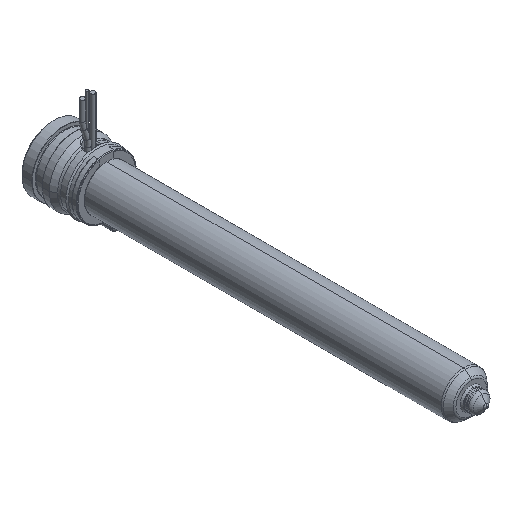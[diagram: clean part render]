
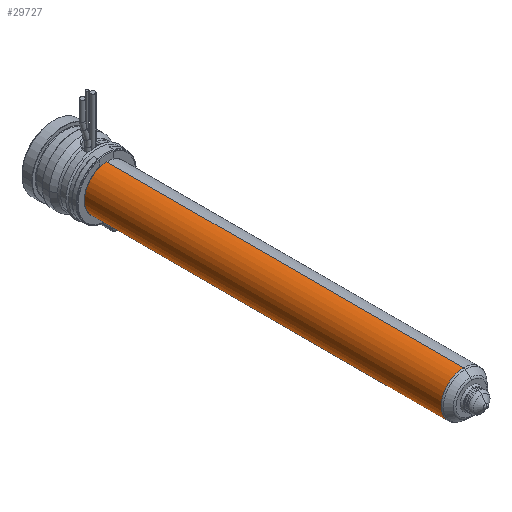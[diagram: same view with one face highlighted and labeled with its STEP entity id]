
A CAD part, isometric view. The second image highlights one B-rep face of the part: STEP entity #29727.
In plain terms, the highlighted cylindrical face has radius 9 mm (diameter 18 mm), a partial arc.
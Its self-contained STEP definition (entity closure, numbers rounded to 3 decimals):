
#29180=CARTESIAN_POINT('',(0.,-165.836,0.));
#29181=DIRECTION('',(0.,-1.,0.));
#29182=DIRECTION('',(0.,0.,1.));
#29183=AXIS2_PLACEMENT_3D('',#29180,#29181,#29182);
#29188=CARTESIAN_POINT('',(0.,-22.,0.));
#29189=DIRECTION('',(0.,-1.,0.));
#29190=DIRECTION('',(0.,0.,1.));
#29191=AXIS2_PLACEMENT_3D('',#29188,#29189,#29190);
#29196=DIRECTION('',(0.,-1.,0.));
#29197=VECTOR('',#29196,143.836);
#29198=CARTESIAN_POINT('',(0.,-22.,9.));
#29199=LINE('',#29198,#29197);
#29211=DIRECTION('',(0.,-1.,0.));
#29212=VECTOR('',#29211,143.836);
#29213=CARTESIAN_POINT('',(0.,-22.,-9.));
#29214=LINE('',#29213,#29212);
#29408=CARTESIAN_POINT('',(0.,-22.,9.));
#29409=CARTESIAN_POINT('',(0.,-165.836,9.));
#29410=VERTEX_POINT('',#29408);
#29411=VERTEX_POINT('',#29409);
#29430=CARTESIAN_POINT('',(0.,-22.,-9.));
#29431=CARTESIAN_POINT('',(0.,-165.836,-9.));
#29432=VERTEX_POINT('',#29430);
#29433=VERTEX_POINT('',#29431);
#29713=CARTESIAN_POINT('',(0.,-10.125,0.));
#29714=DIRECTION('',(0.,-1.,0.));
#29715=DIRECTION('',(0.,0.,1.));
#29716=AXIS2_PLACEMENT_3D('',#29713,#29714,#29715);
#29717=CYLINDRICAL_SURFACE('',#29716,9.);
#29719=ORIENTED_EDGE('',*,*,#29718,.T.);
#29720=ORIENTED_EDGE('',*,*,#29708,.T.);
#29722=ORIENTED_EDGE('',*,*,#29721,.F.);
#29724=ORIENTED_EDGE('',*,*,#29723,.F.);
#29725=EDGE_LOOP('',(#29719,#29720,#29722,#29724));
#29726=FACE_OUTER_BOUND('',#29725,.F.);
#29727=ADVANCED_FACE('',(#29726),#29717,.T.);
#29184=CIRCLE('',#29183,9.);
#29192=CIRCLE('',#29191,9.);
#29708=EDGE_CURVE('',#29411,#29433,#29184,.T.);
#29718=EDGE_CURVE('',#29410,#29411,#29199,.T.);
#29721=EDGE_CURVE('',#29432,#29433,#29214,.T.);
#29723=EDGE_CURVE('',#29410,#29432,#29192,.T.);
